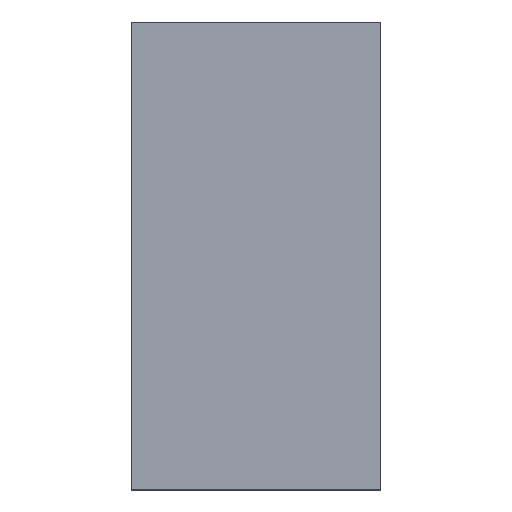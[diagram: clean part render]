
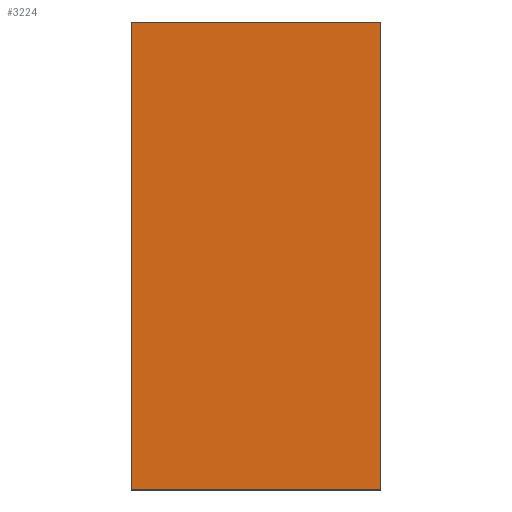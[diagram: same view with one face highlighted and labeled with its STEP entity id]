
A CAD part, top view. The second image highlights one B-rep face of the part: STEP entity #3224.
In plain terms, the highlighted planar face has unit normal (0, 0, 1) as drawn and (0, 0, -1) by its records, which use the part's own axes.
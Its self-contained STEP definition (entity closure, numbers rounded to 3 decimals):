
#60 = ORIENTED_EDGE ( 'NONE', *, *, #1448, .F. ) ;
#172 = LINE ( 'NONE', #1616, #2760 ) ;
#235 = EDGE_CURVE ( 'NONE', #886, #901, #1951, .T. ) ;
#285 = ORIENTED_EDGE ( 'NONE', *, *, #490, .F. ) ;
#443 = VECTOR ( 'NONE', #2209, 1000. ) ;
#485 = DIRECTION ( 'NONE',  ( 0., 1., 0. ) ) ;
#490 = EDGE_CURVE ( 'NONE', #2067, #1164, #2528, .T. ) ;
#527 = CARTESIAN_POINT ( 'NONE',  ( 80., 0., 0. ) ) ;
#657 = VECTOR ( 'NONE', #485, 1000. ) ;
#811 = DIRECTION ( 'NONE',  ( -1., 0., 0. ) ) ;
#886 = VERTEX_POINT ( 'NONE', #1673 ) ;
#901 = VERTEX_POINT ( 'NONE', #1905 ) ;
#1008 = ORIENTED_EDGE ( 'NONE', *, *, #235, .F. ) ;
#1164 = VERTEX_POINT ( 'NONE', #1360 ) ;
#1217 = FACE_OUTER_BOUND ( 'NONE', #2454, .T. ) ;
#1360 = CARTESIAN_POINT ( 'NONE',  ( 80., 150., 0. ) ) ;
#1418 = ORIENTED_EDGE ( 'NONE', *, *, #2778, .F. ) ;
#1448 = EDGE_CURVE ( 'NONE', #901, #2067, #3033, .T. ) ;
#1599 = DIRECTION ( 'NONE',  ( -1., 0., 0. ) ) ;
#1616 = CARTESIAN_POINT ( 'NONE',  ( 0., 150., 0. ) ) ;
#1673 = CARTESIAN_POINT ( 'NONE',  ( 0., 150., 0. ) ) ;
#1751 = VECTOR ( 'NONE', #3133, 1000. ) ;
#1761 = CARTESIAN_POINT ( 'NONE',  ( 80., 0., 0. ) ) ;
#1870 = CARTESIAN_POINT ( 'NONE',  ( 0., 0., 0. ) ) ;
#1905 = CARTESIAN_POINT ( 'NONE',  ( 0., 0., 0. ) ) ;
#1951 = LINE ( 'NONE', #1870, #1751 ) ;
#2043 = PLANE ( 'NONE',  #2754 ) ;
#2067 = VERTEX_POINT ( 'NONE', #527 ) ;
#2209 = DIRECTION ( 'NONE',  ( 1., 0., 0. ) ) ;
#2269 = CARTESIAN_POINT ( 'NONE',  ( 0., 0., 0. ) ) ;
#2454 = EDGE_LOOP ( 'NONE', ( #1008, #1418, #285, #60 ) ) ;
#2528 = LINE ( 'NONE', #1761, #657 ) ;
#2536 = DIRECTION ( 'NONE',  ( 0., 0., -1. ) ) ;
#2710 = CARTESIAN_POINT ( 'NONE',  ( 0., 0., 0. ) ) ;
#2754 = AXIS2_PLACEMENT_3D ( 'NONE', #2269, #2536, #811 ) ;
#2760 = VECTOR ( 'NONE', #1599, 1000. ) ;
#2778 = EDGE_CURVE ( 'NONE', #1164, #886, #172, .T. ) ;
#3033 = LINE ( 'NONE', #2710, #443 ) ;
#3133 = DIRECTION ( 'NONE',  ( 0., -1., 0. ) ) ;
#3224 = ADVANCED_FACE ( 'NONE', ( #1217 ), #2043, .T. ) ;
